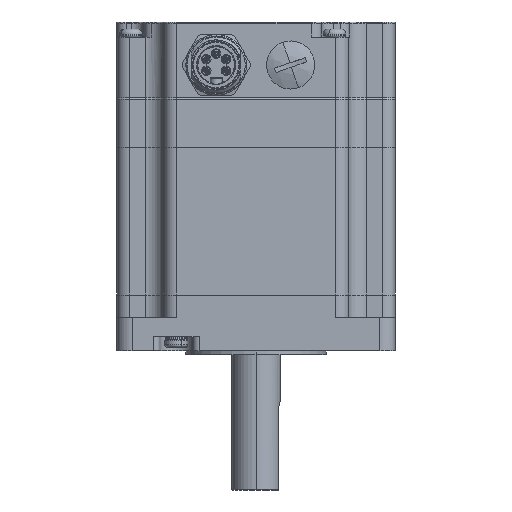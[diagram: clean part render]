
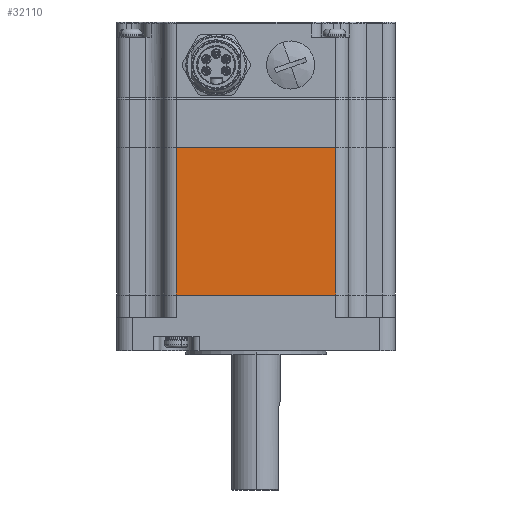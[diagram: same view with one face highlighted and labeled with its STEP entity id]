
A CAD part, left-side view. The second image highlights one B-rep face of the part: STEP entity #32110.
In plain terms, the highlighted planar face has unit normal (-1, 0, 0).
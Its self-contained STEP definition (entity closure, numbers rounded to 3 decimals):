
#10658 = EDGE_CURVE ( 'NONE', #71770, #55764, #72985, .T. ) ;
#15462 = DIRECTION ( 'NONE',  ( 0., -1., 0. ) ) ;
#15607 = DIRECTION ( 'NONE',  ( 0., 0., 1. ) ) ;
#16448 = ORIENTED_EDGE ( 'NONE', *, *, #81636, .T. ) ;
#16728 = DIRECTION ( 'NONE',  ( 0., -1., 0. ) ) ;
#17431 = AXIS2_PLACEMENT_3D ( 'NONE', #76969, #38884, #16728 ) ;
#17913 = LINE ( 'NONE', #74512, #53824 ) ;
#19285 = LINE ( 'NONE', #69682, #74005 ) ;
#20078 = EDGE_LOOP ( 'NONE', ( #23032, #34903, #16448, #23390 ) ) ;
#20774 = CARTESIAN_POINT ( 'NONE',  ( -55., -31.5, 55.62 ) ) ;
#20958 = CARTESIAN_POINT ( 'NONE',  ( -55., 31.5, 55.62 ) ) ;
#23032 = ORIENTED_EDGE ( 'NONE', *, *, #10658, .F. ) ;
#23390 = ORIENTED_EDGE ( 'NONE', *, *, #73645, .T. ) ;
#25559 = DIRECTION ( 'NONE',  ( 0., -1., 0. ) ) ;
#32110 = ADVANCED_FACE ( 'NONE', ( #73795 ), #33964, .T. ) ;
#33964 = PLANE ( 'NONE',  #17431 ) ;
#34903 = ORIENTED_EDGE ( 'NONE', *, *, #48683, .F. ) ;
#37725 = CARTESIAN_POINT ( 'NONE',  ( -55., -31.5, -2.8 ) ) ;
#38884 = DIRECTION ( 'NONE',  ( -1., 0., 0. ) ) ;
#42196 = CARTESIAN_POINT ( 'NONE',  ( -55., 31.5, -2.8 ) ) ;
#45230 = CARTESIAN_POINT ( 'NONE',  ( -55., 31.5, 55.62 ) ) ;
#48683 = EDGE_CURVE ( 'NONE', #77814, #71770, #58457, .T. ) ;
#49434 = VERTEX_POINT ( 'NONE', #37725 ) ;
#51240 = VECTOR ( 'NONE', #15607, 1000. ) ;
#53824 = VECTOR ( 'NONE', #56481, 1000. ) ;
#55764 = VERTEX_POINT ( 'NONE', #20774 ) ;
#56481 = DIRECTION ( 'NONE',  ( 0., 0., 1. ) ) ;
#57908 = VECTOR ( 'NONE', #15462, 1000. ) ;
#58457 = LINE ( 'NONE', #79400, #51240 ) ;
#69682 = CARTESIAN_POINT ( 'NONE',  ( -55., 31.5, -2.8 ) ) ;
#71770 = VERTEX_POINT ( 'NONE', #45230 ) ;
#72985 = LINE ( 'NONE', #20958, #57908 ) ;
#73645 = EDGE_CURVE ( 'NONE', #49434, #55764, #17913, .T. ) ;
#73795 = FACE_OUTER_BOUND ( 'NONE', #20078, .T. ) ;
#74005 = VECTOR ( 'NONE', #25559, 1000. ) ;
#74512 = CARTESIAN_POINT ( 'NONE',  ( -55., -31.5, -2.8 ) ) ;
#76969 = CARTESIAN_POINT ( 'NONE',  ( -55., 31.5, -2.8 ) ) ;
#77814 = VERTEX_POINT ( 'NONE', #42196 ) ;
#79400 = CARTESIAN_POINT ( 'NONE',  ( -55., 31.5, -2.8 ) ) ;
#81636 = EDGE_CURVE ( 'NONE', #77814, #49434, #19285, .T. ) ;
